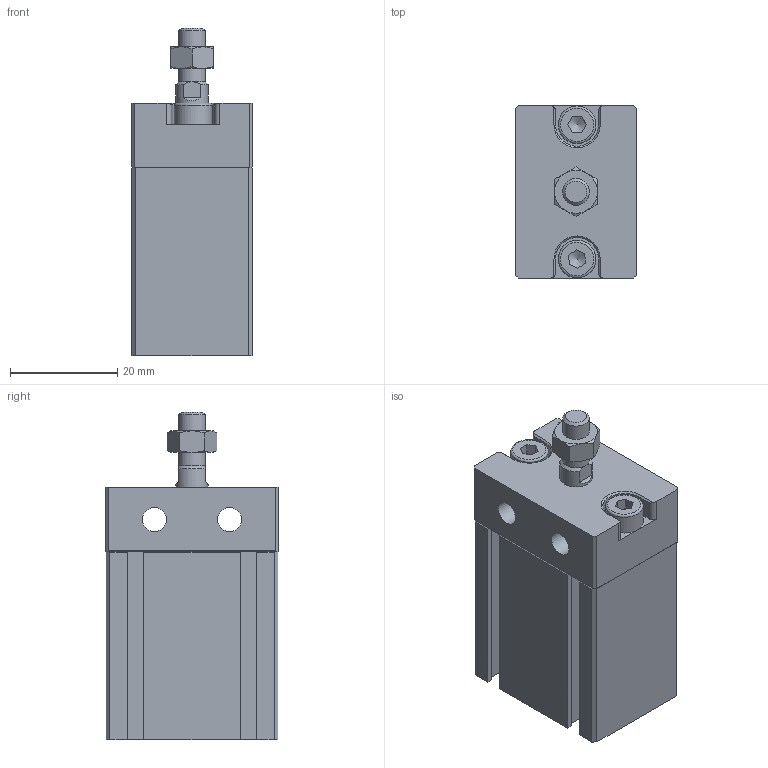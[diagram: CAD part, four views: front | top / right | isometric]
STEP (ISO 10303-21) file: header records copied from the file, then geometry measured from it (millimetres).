
FILE_DESCRIPTION((''),'2;1');
FILE_NAME('I:\3D電子目錄\氣缸\ND\ND\ND16-B\ND16x10-B.stp','2007-07-23T19:20:41',('Administrator'),(''),'Autodesk Inventor 11','Autodesk Inventor 11','');
FILE_SCHEMA(('AUTOMOTIVE_DESIGN { 1 0 10303 214 1 1 1 1 }'));
Length unit declared in the file: millimetre
Products named in the file (4): ND16-B; R 形環 18; ISO 4762 M4 x 10
Assembly tree (4 placements, depth 2):
  ND16-B
    ND16-B
    R 形環 18
    ISO 4762 M4 x 10  x2
Bounding box: 22.4 x 32.1 x 61 mm (x, y, z)
Volume: 28924.9 mm3; surface area: 11215.2 mm2
Topology: 5 solids, 5 shells, 190 faces, 450 edges, 285 vertices
Faces by surface type: plane 117, cylinder 28, cone 28, bspline 14, torus 3
Full cylindrical faces by diameter (mm): 1.5 x4, 4 x2, 4.5 x2, 5 x2, 6 x1, 7 x2, 10 x1, 18 x1, 19 x1
Entity records: 5015 total; most frequent: CARTESIAN_POINT 1070, DIRECTION 784, ORIENTED_EDGE 754, EDGE_CURVE 377, AXIS2_PLACEMENT_3D 271, VERTEX_POINT 259, VECTOR 242, LINE 242
